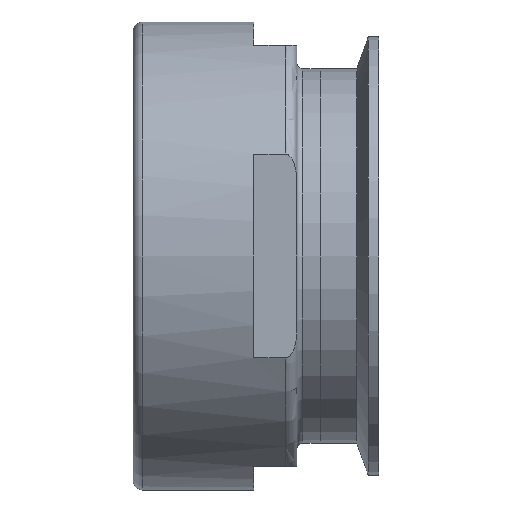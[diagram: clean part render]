
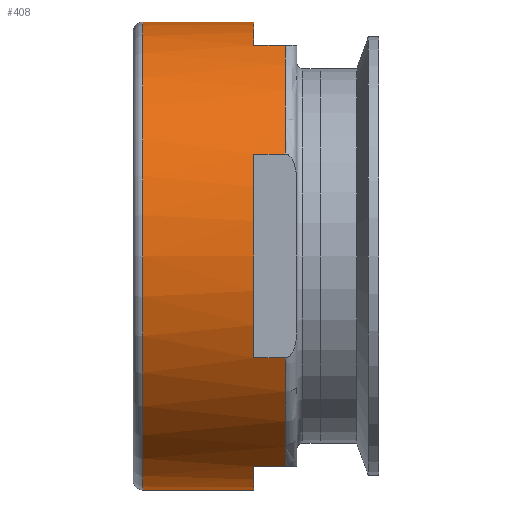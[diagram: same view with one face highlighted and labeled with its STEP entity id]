
A CAD part, left-side view. The second image highlights one B-rep face of the part: STEP entity #408.
In plain terms, the highlighted cylindrical face has radius 63.5 mm (diameter 127 mm), a partial arc.
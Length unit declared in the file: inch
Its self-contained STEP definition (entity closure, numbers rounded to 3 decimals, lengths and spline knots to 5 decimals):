
#5 = CARTESIAN_POINT ( 'NONE',  ( 0., 1.62592, 0. ) ) ;
#11 = ORIENTED_EDGE ( 'NONE', *, *, #260, .T. ) ;
#37 = DIRECTION ( 'NONE',  ( 0., 1., 0. ) ) ;
#59 = ORIENTED_EDGE ( 'NONE', *, *, #1064, .F. ) ;
#72 = AXIS2_PLACEMENT_3D ( 'NONE', #5, #573, #300 ) ;
#73 = EDGE_CURVE ( 'NONE', #1519, #159, #173, .T. ) ;
#79 = CARTESIAN_POINT ( 'NONE',  ( -2.25, 0., -1.08972 ) ) ;
#94 = EDGE_CURVE ( 'NONE', #539, #996, #1639, .T. ) ;
#149 = EDGE_LOOP ( 'NONE', ( #680, #987, #426, #262, #59, #1355, #1308, #11, #455, #870, #1414, #414 ) ) ;
#159 = VERTEX_POINT ( 'NONE', #213 ) ;
#162 = CARTESIAN_POINT ( 'NONE',  ( -2.25, 0.437, 1.08972 ) ) ;
#173 = CIRCLE ( 'NONE', #950, 2.5 ) ;
#175 = EDGE_CURVE ( 'NONE', #1842, #1149, #464, .T. ) ;
#203 = VECTOR ( 'NONE', #37, 39.37008 ) ;
#213 = CARTESIAN_POINT ( 'NONE',  ( -1.08972, 0.10092, -2.25 ) ) ;
#221 = DIRECTION ( 'NONE',  ( 0., 1., 0. ) ) ;
#225 = DIRECTION ( 'NONE',  ( 0., -1., 0. ) ) ;
#244 = VECTOR ( 'NONE', #640, 39.37008 ) ;
#260 = EDGE_CURVE ( 'NONE', #1068, #1149, #1276, .T. ) ;
#262 = ORIENTED_EDGE ( 'NONE', *, *, #1464, .T. ) ;
#274 = CARTESIAN_POINT ( 'NONE',  ( 0., 0.10092, 0. ) ) ;
#300 = DIRECTION ( 'NONE',  ( 0., 0., -1. ) ) ;
#309 = VERTEX_POINT ( 'NONE', #826 ) ;
#320 = LINE ( 'NONE', #79, #244 ) ;
#359 = CARTESIAN_POINT ( 'NONE',  ( 0., 0.437, 0. ) ) ;
#367 = VERTEX_POINT ( 'NONE', #705 ) ;
#400 = CYLINDRICAL_SURFACE ( 'NONE', #793, 2.5 ) ;
#408 = ADVANCED_FACE ( 'NONE', ( #1516 ), #400, .T. ) ;
#414 = ORIENTED_EDGE ( 'NONE', *, *, #1550, .T. ) ;
#421 = EDGE_CURVE ( 'NONE', #585, #1322, #519, .T. ) ;
#426 = ORIENTED_EDGE ( 'NONE', *, *, #421, .T. ) ;
#455 = ORIENTED_EDGE ( 'NONE', *, *, #175, .F. ) ;
#464 = LINE ( 'NONE', #641, #203 ) ;
#472 = AXIS2_PLACEMENT_3D ( 'NONE', #817, #795, #1501 ) ;
#519 = LINE ( 'NONE', #693, #1506 ) ;
#533 = DIRECTION ( 'NONE',  ( 0., -1., 0. ) ) ;
#539 = VERTEX_POINT ( 'NONE', #867 ) ;
#543 = CARTESIAN_POINT ( 'NONE',  ( 0., 0.437, 2.5 ) ) ;
#573 = DIRECTION ( 'NONE',  ( 0., -1., 0. ) ) ;
#574 = AXIS2_PLACEMENT_3D ( 'NONE', #359, #221, #796 ) ;
#581 = CIRCLE ( 'NONE', #72, 2.5 ) ;
#585 = VERTEX_POINT ( 'NONE', #983 ) ;
#591 = CARTESIAN_POINT ( 'NONE',  ( -2.25, 0.10092, 1.08972 ) ) ;
#604 = VECTOR ( 'NONE', #533, 39.37008 ) ;
#640 = DIRECTION ( 'NONE',  ( 0., -1., 0. ) ) ;
#641 = CARTESIAN_POINT ( 'NONE',  ( -2.25, 0., 1.08972 ) ) ;
#642 = EDGE_CURVE ( 'NONE', #539, #585, #581, .T. ) ;
#659 = AXIS2_PLACEMENT_3D ( 'NONE', #905, #1364, #798 ) ;
#680 = ORIENTED_EDGE ( 'NONE', *, *, #94, .F. ) ;
#693 = CARTESIAN_POINT ( 'NONE',  ( 0., 0., -2.5 ) ) ;
#705 = CARTESIAN_POINT ( 'NONE',  ( -1.08972, 0.437, -2.25 ) ) ;
#739 = DIRECTION ( 'NONE',  ( 0., -1., 0. ) ) ;
#752 = CARTESIAN_POINT ( 'NONE',  ( -1.08972, 0.10092, 2.25 ) ) ;
#758 = VECTOR ( 'NONE', #1849, 39.37008 ) ;
#784 = EDGE_CURVE ( 'NONE', #1068, #1519, #320, .T. ) ;
#793 = AXIS2_PLACEMENT_3D ( 'NONE', #1104, #225, #1684 ) ;
#795 = DIRECTION ( 'NONE',  ( 0., 1., 0. ) ) ;
#796 = DIRECTION ( 'NONE',  ( 0., 0., 1. ) ) ;
#798 = DIRECTION ( 'NONE',  ( 0., 0., 1. ) ) ;
#817 = CARTESIAN_POINT ( 'NONE',  ( 0., 0.437, 0. ) ) ;
#826 = CARTESIAN_POINT ( 'NONE',  ( -1.08972, 0.437, 2.25 ) ) ;
#867 = CARTESIAN_POINT ( 'NONE',  ( 0., 1.62592, 2.5 ) ) ;
#870 = ORIENTED_EDGE ( 'NONE', *, *, #1778, .F. ) ;
#905 = CARTESIAN_POINT ( 'NONE',  ( 0., 0.437, 0. ) ) ;
#927 = DIRECTION ( 'NONE',  ( 0., -1., 0. ) ) ;
#950 = AXIS2_PLACEMENT_3D ( 'NONE', #274, #739, #1311 ) ;
#975 = CIRCLE ( 'NONE', #1757, 2.5 ) ;
#983 = CARTESIAN_POINT ( 'NONE',  ( 0., 1.62592, -2.5 ) ) ;
#987 = ORIENTED_EDGE ( 'NONE', *, *, #642, .T. ) ;
#996 = VERTEX_POINT ( 'NONE', #543 ) ;
#1064 = EDGE_CURVE ( 'NONE', #159, #367, #1273, .T. ) ;
#1068 = VERTEX_POINT ( 'NONE', #1725 ) ;
#1085 = DIRECTION ( 'NONE',  ( 0., 0., -1. ) ) ;
#1104 = CARTESIAN_POINT ( 'NONE',  ( 0., 0., 0. ) ) ;
#1129 = DIRECTION ( 'NONE',  ( 0., -1., 0. ) ) ;
#1149 = VERTEX_POINT ( 'NONE', #162 ) ;
#1152 = CARTESIAN_POINT ( 'NONE',  ( -1.08972, 0., -2.25 ) ) ;
#1175 = CARTESIAN_POINT ( 'NONE',  ( 0., 0., 2.5 ) ) ;
#1231 = CARTESIAN_POINT ( 'NONE',  ( -1.08972, 0., 2.25 ) ) ;
#1239 = LINE ( 'NONE', #1231, #604 ) ;
#1256 = VERTEX_POINT ( 'NONE', #752 ) ;
#1273 = LINE ( 'NONE', #1152, #758 ) ;
#1276 = CIRCLE ( 'NONE', #472, 2.5 ) ;
#1308 = ORIENTED_EDGE ( 'NONE', *, *, #784, .F. ) ;
#1311 = DIRECTION ( 'NONE',  ( 0., 0., -1. ) ) ;
#1322 = VERTEX_POINT ( 'NONE', #1634 ) ;
#1355 = ORIENTED_EDGE ( 'NONE', *, *, #73, .F. ) ;
#1364 = DIRECTION ( 'NONE',  ( 0., 1., 0. ) ) ;
#1365 = DIRECTION ( 'NONE',  ( 0., -1., 0. ) ) ;
#1406 = CARTESIAN_POINT ( 'NONE',  ( -2.25, 0.10092, -1.08972 ) ) ;
#1414 = ORIENTED_EDGE ( 'NONE', *, *, #1466, .F. ) ;
#1436 = CIRCLE ( 'NONE', #574, 2.5 ) ;
#1464 = EDGE_CURVE ( 'NONE', #1322, #367, #1436, .T. ) ;
#1466 = EDGE_CURVE ( 'NONE', #309, #1256, #1239, .T. ) ;
#1485 = VECTOR ( 'NONE', #927, 39.37008 ) ;
#1501 = DIRECTION ( 'NONE',  ( 0., 0., 1. ) ) ;
#1506 = VECTOR ( 'NONE', #1365, 39.37008 ) ;
#1516 = FACE_OUTER_BOUND ( 'NONE', #149, .T. ) ;
#1519 = VERTEX_POINT ( 'NONE', #1406 ) ;
#1550 = EDGE_CURVE ( 'NONE', #309, #996, #1643, .T. ) ;
#1634 = CARTESIAN_POINT ( 'NONE',  ( 0., 0.437, -2.5 ) ) ;
#1639 = LINE ( 'NONE', #1175, #1485 ) ;
#1643 = CIRCLE ( 'NONE', #659, 2.5 ) ;
#1684 = DIRECTION ( 'NONE',  ( 0., 0., -1. ) ) ;
#1711 = CARTESIAN_POINT ( 'NONE',  ( 0., 0.10092, 0. ) ) ;
#1725 = CARTESIAN_POINT ( 'NONE',  ( -2.25, 0.437, -1.08972 ) ) ;
#1757 = AXIS2_PLACEMENT_3D ( 'NONE', #1711, #1129, #1085 ) ;
#1778 = EDGE_CURVE ( 'NONE', #1256, #1842, #975, .T. ) ;
#1842 = VERTEX_POINT ( 'NONE', #591 ) ;
#1849 = DIRECTION ( 'NONE',  ( 0., 1., 0. ) ) ;
